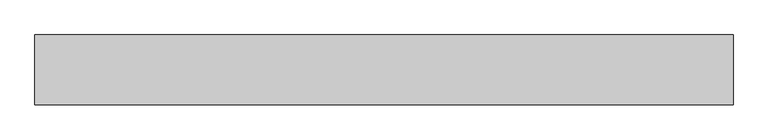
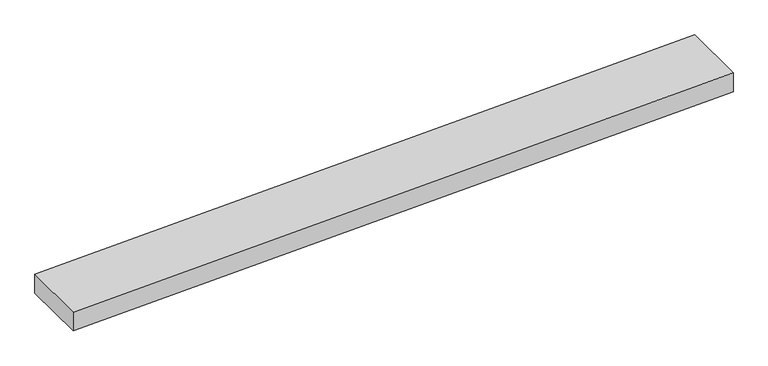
"""IFC4 building model written with IfcOpenShell, lengths in millimetres: ramp geometry, 24_RA_hellingbaan_beton_prefab_300."""

import ifcopenshell
import ifcopenshell.guid

model = None  # the IFC model being written
_history = None  # IfcOwnerHistory: only IFC2X3 demands one
_inside = {}  # id of a spatial element -> (the spatial element, [elements in it])
_under = {}  # id of a project, library or spatial element -> (it, [spatial elements below it])
_declared = {}  # id of a project -> (the project, [libraries it declares])
_typed = {}  # id of a type object -> (the type object, [elements of that type])
_made_of = {}  # id of a material, layer set ... -> (it, [elements and type objects made of it])


def new_model(schema):
    """Start an empty IFC model of exactly this schema.

    Asked for "IFC4X3", IfcOpenShell would pick the latest addendum, in which some entities
    have other attributes; the version numbers below select the first issue.
    IFC2X3 requires an IfcOwnerHistory on every rooted entity: one is made here for all.
    """
    global model, _history
    if schema == "IFC4X3":
        model = ifcopenshell.file(schema_version=(4, 3, 0, 0))
    else:
        model = ifcopenshell.file(schema=schema)
    _inside.clear()
    _under.clear()
    _declared.clear()
    _typed.clear()
    _made_of.clear()
    _history = None
    if model.schema == "IFC2X3":
        org = make("IfcOrganization", Name="unknown")
        user = make(
            "IfcPersonAndOrganization",
            ThePerson=make("IfcPerson", FamilyName="unknown"),
            TheOrganization=org,
        )
        app = make(
            "IfcApplication",
            ApplicationDeveloper=org,
            Version="unknown",
            ApplicationFullName="unknown",
            ApplicationIdentifier="unknown",
        )
        _history = make(
            "IfcOwnerHistory",
            OwningUser=user,
            OwningApplication=app,
            ChangeAction="ADDED",
            CreationDate=0,
        )
    return model


def make(cls, **values):
    """One entity of the class cls with the attributes given. An attribute that is None is left unset."""
    return model.create_entity(
        cls, **{name: value for name, value in values.items() if value is not None}
    )


def rooted(cls, **values):
    """An entity with a GlobalId (a new one), such as an element, a storey or a relation."""
    return make(cls, GlobalId=ifcopenshell.guid.new(), OwnerHistory=_history, **values)


def si_unit(unit_type, name, prefix=None):
    """IfcSIUnit, for example si_unit("LENGTHUNIT", "METRE", prefix="MILLI")."""
    return make("IfcSIUnit", UnitType=unit_type, Prefix=prefix, Name=name)


def assignment(units):
    """IfcUnitAssignment: the units of a project."""
    return None if units is None else make("IfcUnitAssignment", Units=units)


def point(xyz):
    """IfcCartesianPoint."""
    return None if xyz is None else make("IfcCartesianPoint", Coordinates=xyz)


def direction(xyz):
    """IfcDirection."""
    return None if xyz is None else make("IfcDirection", DirectionRatios=xyz)


def frame(location, z_axis=None, x_axis=None):
    """IfcAxis2Placement3D, a coordinate frame: its origin and axes. An axis left out is left unset."""
    return make(
        "IfcAxis2Placement3D",
        Location=point(location),
        Axis=direction(z_axis),
        RefDirection=direction(x_axis),
    )


def origin():
    """The frame at (0, 0, 0) with its axes left unset."""
    return frame((0.0, 0.0, 0.0))


def place(relative_to, where):
    """IfcLocalPlacement: puts the frame where relative to a parent placement (None: the world)."""
    return make(
        "IfcLocalPlacement", PlacementRelTo=relative_to, RelativePlacement=where
    )


def context(
    kind, dimensions, precision=None, world=None, true_north=None, identifier=None
):
    """IfcGeometricRepresentationContext, for example the 3D "Model" context."""
    return make(
        "IfcGeometricRepresentationContext",
        ContextIdentifier=identifier,
        ContextType=kind,
        CoordinateSpaceDimension=dimensions,
        Precision=precision,
        WorldCoordinateSystem=world,
        TrueNorth=true_north,
    )


def project(units=None, contexts=None):
    """IfcProject with its units and contexts."""
    return rooted(
        "IfcProject",
        Name="project",
        RepresentationContexts=contexts,
        UnitsInContext=assignment(units),
    )


def spatial(cls, under=None, at=None, **own):
    """A site, building, storey or space (cls), placed at a placement, below another one or the project."""
    s = rooted(cls, ObjectPlacement=at, **own)
    if under is not None:
        _under.setdefault(under.id(), (under, []))[1].append(s)
    return s


def polyline(points):
    """IfcPolyline through the points."""
    return make("IfcPolyline", Points=[point(p) for p in points])


def outline(outer, holes=None, kind="AREA"):
    """IfcArbitraryClosedProfileDef: a profile drawn as a closed curve; with holes, ...WithVoids."""
    if holes is None:
        return make("IfcArbitraryClosedProfileDef", ProfileType=kind, OuterCurve=outer)
    return make(
        "IfcArbitraryProfileDefWithVoids",
        ProfileType=kind,
        OuterCurve=outer,
        InnerCurves=holes,
    )


def extrude(swept, where, along, depth):
    """IfcExtrudedAreaSolid: the profile swept, set in the frame where, extruded along a direction by depth."""
    return make(
        "IfcExtrudedAreaSolid",
        SweptArea=swept,
        Position=where,
        ExtrudedDirection=direction(along),
        Depth=depth,
    )


def shape(context_of_items, identifier, shape_type, items):
    """IfcShapeRepresentation: the items that make up one representation, for example the "Body"."""
    return make(
        "IfcShapeRepresentation",
        ContextOfItems=context_of_items,
        RepresentationIdentifier=identifier,
        RepresentationType=shape_type,
        Items=items,
    )


def source(mapping_origin, context_of_items, identifier, shape_type, items):
    """IfcRepresentationMap: a shape defined once, which mapped items show again and again."""
    return make(
        "IfcRepresentationMap",
        MappingOrigin=mapping_origin,
        MappedRepresentation=shape(context_of_items, identifier, shape_type, items),
    )


def transform(
    local_origin,
    x_axis=None,
    y_axis=None,
    z_axis=None,
    scale=None,
    scale2=None,
    scale3=None,
    uniform=True,
):
    """IfcCartesianTransformationOperator3D, or its non-uniform kind. x_axis, y_axis, z_axis: its Axis1, 2, 3."""
    if uniform:
        return make(
            "IfcCartesianTransformationOperator3D",
            Axis1=direction(x_axis),
            Axis2=direction(y_axis),
            LocalOrigin=point(local_origin),
            Scale=scale,
            Axis3=direction(z_axis),
        )
    return make(
        "IfcCartesianTransformationOperator3DnonUniform",
        Axis1=direction(x_axis),
        Axis2=direction(y_axis),
        LocalOrigin=point(local_origin),
        Scale=scale,
        Axis3=direction(z_axis),
        Scale2=scale2,
        Scale3=scale3,
    )


def mapped(mapping_source, mapping_target):
    """IfcMappedItem: shows the shape of a source again, moved by a transform."""
    return make(
        "IfcMappedItem", MappingSource=mapping_source, MappingTarget=mapping_target
    )


def made_of(thing, what):
    """Note that an element or type object is made of a material, layer set ...; save() writes the relation."""
    if what is not None:
        _made_of.setdefault(what.id(), (what, []))[1].append(thing)
    return thing


def element(
    cls,
    number,
    at=None,
    inside=None,
    cuts=None,
    type_object=None,
    material=None,
    context=None,
    identifier="Body",
    shape_type=None,
    held_by="IfcProductDefinitionShape",
    body=None,
    shapes=None,
    **own,
):
    """One element of the class cls, such as IfcWall. Its Tag is "e" and its number.

    at: its placement. inside: the storey or other place that contains it. cuts: it is an
    opening in that element (IfcRelVoidsElement). A single representation is given by context,
    identifier, shape_type and body (its items); several are given by shapes. held_by: the class
    of the entity that holds the representations. save() writes the other relations.
    """
    e = rooted(cls, Tag="e%d" % number, ObjectPlacement=at, **own)
    if body is not None:
        shapes = [shape(context, identifier, shape_type, body)]
    if shapes is not None:
        e.Representation = make(held_by, Representations=shapes)
    if inside is not None:
        _inside.setdefault(inside.id(), (inside, []))[1].append(e)
    if cuts is not None:
        rooted(
            "IfcRelVoidsElement", RelatingBuildingElement=cuts, RelatedOpeningElement=e
        )
    if type_object is not None:
        _typed.setdefault(type_object.id(), (type_object, []))[1].append(e)
    return made_of(e, material)


def aggregate(whole, parts):
    """IfcRelAggregates: a whole, such as a stair, and the parts it consists of."""
    return rooted("IfcRelAggregates", RelatingObject=whole, RelatedObjects=parts)


def save(model, path):
    """Write the relations noted so far, then the file.

    IfcRelAggregates (storeys below a building ...), IfcRelContainedInSpatialStructure (elements
    in a storey), IfcRelDefinesByType, IfcRelAssociatesMaterial and IfcRelDeclares: one each for
    every whole, place, type object, material and project.
    """
    for whole, parts in _under.values():
        aggregate(whole, parts)
    for where, things in _inside.values():
        rooted(
            "IfcRelContainedInSpatialStructure",
            RelatedElements=things,
            RelatingStructure=where,
        )
    for kind, things in _typed.values():
        rooted("IfcRelDefinesByType", RelatedObjects=things, RelatingType=kind)
    for what, things in _made_of.values():
        rooted("IfcRelAssociatesMaterial", RelatedObjects=things, RelatingMaterial=what)
    for by, libraries in _declared.values():
        rooted("IfcRelDeclares", RelatingContext=by, RelatedDefinitions=libraries)
    model.write(path)


def ramp_d673f055(model_context):
    return source(origin(), model_context, "Body", "SweptSolid", [
        extrude(outline(polyline([(333.3333333, 27650.3204725), (0.0, 17650.3204725), (-300.1666204, 17650.3204725), (33.1667129, 27650.3204725), (333.3333333, 27650.3204725)])), frame((0.0, -33650.6479444, 0.0), z_axis=(0.0, 1.0, 0.0), x_axis=(0.0, 0.0, 1.0)), (0.0, 0.0, 1.0), 1000.0),
    ])


if __name__ == "__main__":
    model = new_model("IFC4")
    model_context = context("Model", 3, world=origin())
    ifc_project = project(units=[si_unit("LENGTHUNIT", "METRE", prefix="MILLI")], contexts=[model_context])
    site = spatial("IfcSite", under=ifc_project)
    building = spatial("IfcBuilding", under=site)
    placement = place(None, origin())
    ramp_shape = ramp_d673f055(model_context)
    element("IfcRamp", 1, ObjectType="24_RA_hellingbaan_beton_prefab_300", at=placement, inside=building, context=model_context, shape_type="MappedRepresentation", body=[
        mapped(ramp_shape, transform((0.0, 0.0, 0.0), x_axis=(1.0, 0.0, 0.0), y_axis=(0.0, 1.0, 0.0), z_axis=(0.0, 0.0, 1.0))),
    ])
    save(model, "model.ifc")
